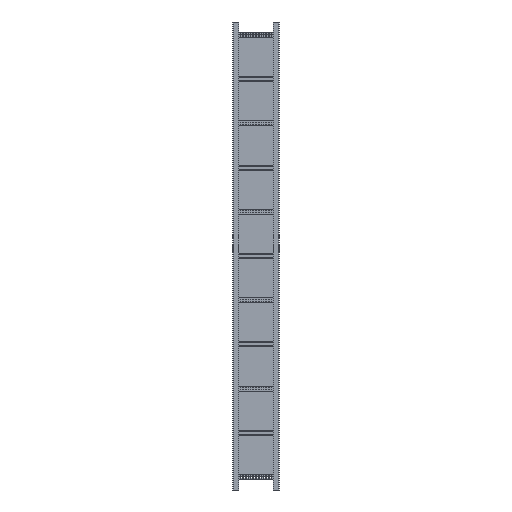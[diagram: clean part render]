
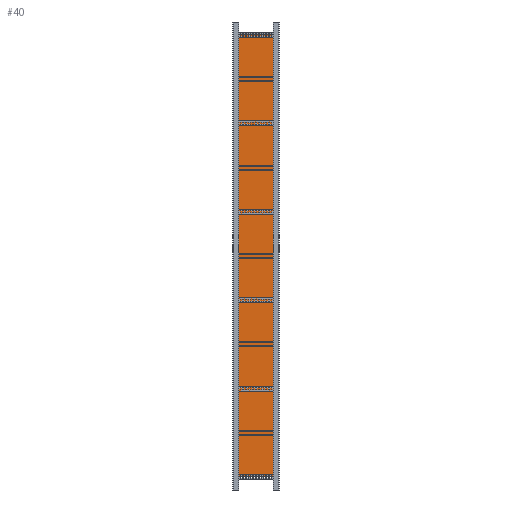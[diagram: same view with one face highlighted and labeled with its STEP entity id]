
A CAD part, front view. The second image highlights one B-rep face of the part: STEP entity #40.
In plain terms, the highlighted planar face has unit normal (0, 1, 0).
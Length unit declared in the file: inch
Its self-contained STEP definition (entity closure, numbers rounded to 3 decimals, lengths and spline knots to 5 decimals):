
#1=DIRECTION('',(0.,0.,-1.));
#2=VECTOR('',#1,136.);
#3=CARTESIAN_POINT('',(-6.,-1.,-4.));
#4=LINE('',#3,#2);
#5=DIRECTION('',(1.,0.,0.));
#6=VECTOR('',#5,12.);
#7=CARTESIAN_POINT('',(-6.,-1.,-140.));
#8=LINE('',#7,#6);
#9=DIRECTION('',(0.,0.,1.));
#10=VECTOR('',#9,136.);
#11=CARTESIAN_POINT('',(6.,-1.,-140.));
#12=LINE('',#11,#10);
#13=DIRECTION('',(-1.,0.,0.));
#14=VECTOR('',#13,12.);
#15=CARTESIAN_POINT('',(6.,-1.,-4.));
#16=LINE('',#15,#14);
#17=CARTESIAN_POINT('',(-6.,-1.,-140.));
#18=CARTESIAN_POINT('',(-6.,-1.,-4.));
#19=VERTEX_POINT('',#17);
#20=VERTEX_POINT('',#18);
#21=CARTESIAN_POINT('',(6.,-1.,-4.));
#22=VERTEX_POINT('',#21);
#23=CARTESIAN_POINT('',(6.,-1.,-140.));
#24=VERTEX_POINT('',#23);
#25=CARTESIAN_POINT('',(0.,-1.,0.));
#26=DIRECTION('',(0.,1.,0.));
#27=DIRECTION('',(1.,0.,0.));
#28=AXIS2_PLACEMENT_3D('',#25,#26,#27);
#29=PLANE('',#28);
#31=ORIENTED_EDGE('',*,*,#30,.T.);
#33=ORIENTED_EDGE('',*,*,#32,.T.);
#35=ORIENTED_EDGE('',*,*,#34,.T.);
#37=ORIENTED_EDGE('',*,*,#36,.T.);
#38=EDGE_LOOP('',(#31,#33,#35,#37));
#39=FACE_OUTER_BOUND('',#38,.F.);
#40=ADVANCED_FACE('',(#39),#29,.T.);
#30=EDGE_CURVE('',#20,#19,#4,.T.);
#32=EDGE_CURVE('',#19,#24,#8,.T.);
#34=EDGE_CURVE('',#24,#22,#12,.T.);
#36=EDGE_CURVE('',#22,#20,#16,.T.);
